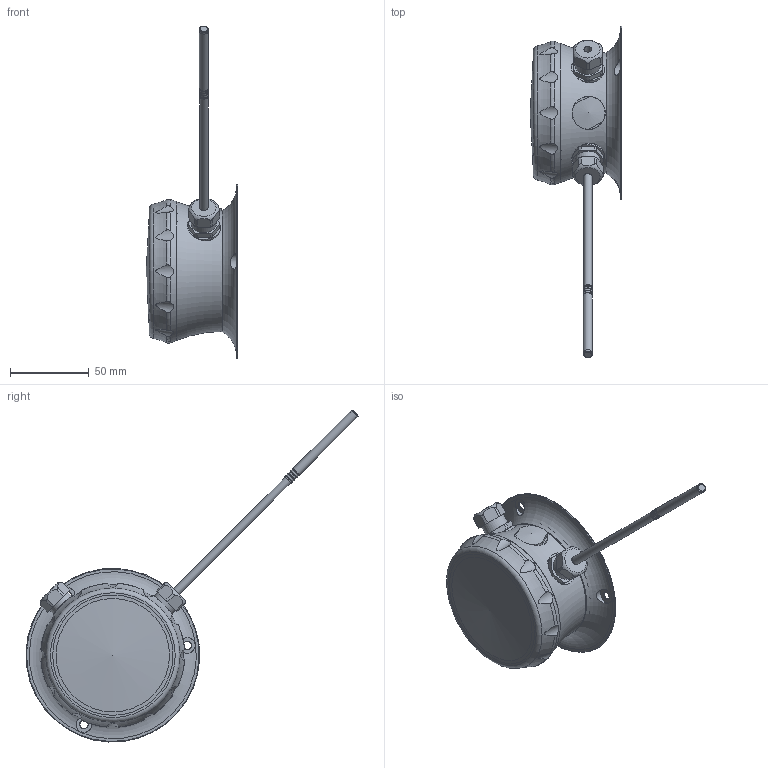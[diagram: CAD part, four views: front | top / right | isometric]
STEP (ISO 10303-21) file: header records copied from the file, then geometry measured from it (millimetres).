
FILE_DESCRIPTION( ( 'Unknown' ), '1' );
FILE_NAME( 'Z:/U_Proces/dokumentation new/Mechanical parts/7000 3D Step filer/7000-/7000336/TFR5-A511.2111.0010.stp', 'Unknown', ( 'Unknown' ), ( 'Unknown' ), 'PSStep 15.0.49', 'Unknown', ' ' );
FILE_SCHEMA( ( 'AUTOMOTIVE_DESIGN { 1 0 10303 214 1 1 1 1 }' ) );
Length unit declared in the file: millimetre
Products named in the file (1): pakning ø16 x1,5
Bounding box: 58 x 210.16 x 210.16 mm (x, y, z)
Volume: 118656.4 mm3; surface area: 74128.9 mm2
Topology: 1 solids, 6 shells, 270 faces, 695 edges, 467 vertices
Faces by surface type: cylinder 96, plane 89, torus 38, cone 33, bspline 14
Full cylindrical faces by diameter (mm): 3.4 x2, 4.9 x2, 5.1 x3, 5.2 x1, 5.3 x1, 5.8 x5, 10 x2, 16 x9, 20.8 x1, 21 x2, 40 x1, 76.333 x1, 76.4 x1, 78.4 x1, 81.2 x1, 81.5 x1, 83.7 x1, 110 x1
Entity records: 12826 total; most frequent: CARTESIAN_POINT 4892, DIRECTION 1129, ORIENTED_EDGE 1114, EDGE_CURVE 557, AXIS2_PLACEMENT_3D 501, VERTEX_POINT 420, EDGE_LOOP 405, FACE_OUTER_BOUND 327
